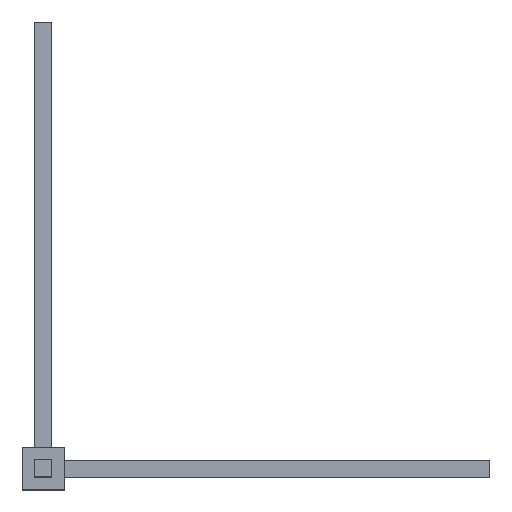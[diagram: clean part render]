
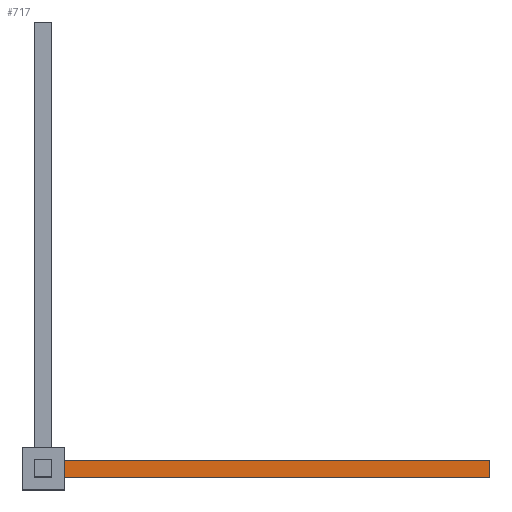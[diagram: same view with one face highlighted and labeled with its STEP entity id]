
A CAD part, top view. The second image highlights one B-rep face of the part: STEP entity #717.
In plain terms, the highlighted planar face has unit normal (0, 0, 1).
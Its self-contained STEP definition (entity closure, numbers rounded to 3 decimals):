
#403 = VERTEX_POINT('',#404);
#404 = CARTESIAN_POINT('',(5.,-2.,2.));
#411 = PLANE('',#412);
#412 = AXIS2_PLACEMENT_3D('',#413,#414,#415);
#413 = CARTESIAN_POINT('',(5.,-2.,-2.));
#414 = DIRECTION('',(1.,0.,0.));
#415 = DIRECTION('',(0.,0.,1.));
#423 = PLANE('',#424);
#424 = AXIS2_PLACEMENT_3D('',#425,#426,#427);
#425 = CARTESIAN_POINT('',(5.,-2.,-2.));
#426 = DIRECTION('',(0.,1.,0.));
#427 = DIRECTION('',(0.,0.,1.));
#464 = VERTEX_POINT('',#465);
#465 = CARTESIAN_POINT('',(5.,2.,2.));
#479 = PLANE('',#480);
#480 = AXIS2_PLACEMENT_3D('',#481,#482,#483);
#481 = CARTESIAN_POINT('',(5.,2.,-2.));
#482 = DIRECTION('',(0.,1.,0.));
#483 = DIRECTION('',(0.,0.,1.));
#491 = EDGE_CURVE('',#403,#464,#492,.T.);
#492 = SURFACE_CURVE('',#493,(#497,#504),.PCURVE_S1.);
#493 = LINE('',#494,#495);
#494 = CARTESIAN_POINT('',(5.,-2.,2.));
#495 = VECTOR('',#496,1.);
#496 = DIRECTION('',(0.,1.,0.));
#497 = PCURVE('',#411,#498);
#498 = DEFINITIONAL_REPRESENTATION('',(#499),#503);
#499 = LINE('',#500,#501);
#500 = CARTESIAN_POINT('',(4.,0.));
#501 = VECTOR('',#502,1.);
#502 = DIRECTION('',(0.,-1.));
#503 = ( GEOMETRIC_REPRESENTATION_CONTEXT(2) 
PARAMETRIC_REPRESENTATION_CONTEXT() REPRESENTATION_CONTEXT('2D SPACE',''
  ) );
#504 = PCURVE('',#505,#510);
#505 = PLANE('',#506);
#506 = AXIS2_PLACEMENT_3D('',#507,#508,#509);
#507 = CARTESIAN_POINT('',(5.,-2.,2.));
#508 = DIRECTION('',(0.,0.,1.));
#509 = DIRECTION('',(1.,0.,0.));
#510 = DEFINITIONAL_REPRESENTATION('',(#511),#515);
#511 = LINE('',#512,#513);
#512 = CARTESIAN_POINT('',(0.,0.));
#513 = VECTOR('',#514,1.);
#514 = DIRECTION('',(0.,1.));
#515 = ( GEOMETRIC_REPRESENTATION_CONTEXT(2) 
PARAMETRIC_REPRESENTATION_CONTEXT() REPRESENTATION_CONTEXT('2D SPACE',''
  ) );
#523 = VERTEX_POINT('',#524);
#524 = CARTESIAN_POINT('',(105.,-2.,2.));
#531 = PLANE('',#532);
#532 = AXIS2_PLACEMENT_3D('',#533,#534,#535);
#533 = CARTESIAN_POINT('',(105.,-2.,-2.));
#534 = DIRECTION('',(1.,0.,0.));
#535 = DIRECTION('',(0.,0.,1.));
#574 = VERTEX_POINT('',#575);
#575 = CARTESIAN_POINT('',(105.,2.,2.));
#596 = EDGE_CURVE('',#523,#574,#597,.T.);
#597 = SURFACE_CURVE('',#598,(#602,#609),.PCURVE_S1.);
#598 = LINE('',#599,#600);
#599 = CARTESIAN_POINT('',(105.,-2.,2.));
#600 = VECTOR('',#601,1.);
#601 = DIRECTION('',(0.,1.,0.));
#602 = PCURVE('',#531,#603);
#603 = DEFINITIONAL_REPRESENTATION('',(#604),#608);
#604 = LINE('',#605,#606);
#605 = CARTESIAN_POINT('',(4.,0.));
#606 = VECTOR('',#607,1.);
#607 = DIRECTION('',(0.,-1.));
#608 = ( GEOMETRIC_REPRESENTATION_CONTEXT(2) 
PARAMETRIC_REPRESENTATION_CONTEXT() REPRESENTATION_CONTEXT('2D SPACE',''
  ) );
#609 = PCURVE('',#505,#610);
#610 = DEFINITIONAL_REPRESENTATION('',(#611),#615);
#611 = LINE('',#612,#613);
#612 = CARTESIAN_POINT('',(100.,0.));
#613 = VECTOR('',#614,1.);
#614 = DIRECTION('',(0.,1.));
#615 = ( GEOMETRIC_REPRESENTATION_CONTEXT(2) 
PARAMETRIC_REPRESENTATION_CONTEXT() REPRESENTATION_CONTEXT('2D SPACE',''
  ) );
#642 = EDGE_CURVE('',#403,#523,#643,.T.);
#643 = SURFACE_CURVE('',#644,(#648,#655),.PCURVE_S1.);
#644 = LINE('',#645,#646);
#645 = CARTESIAN_POINT('',(5.,-2.,2.));
#646 = VECTOR('',#647,1.);
#647 = DIRECTION('',(1.,0.,0.));
#648 = PCURVE('',#423,#649);
#649 = DEFINITIONAL_REPRESENTATION('',(#650),#654);
#650 = LINE('',#651,#652);
#651 = CARTESIAN_POINT('',(4.,0.));
#652 = VECTOR('',#653,1.);
#653 = DIRECTION('',(0.,1.));
#654 = ( GEOMETRIC_REPRESENTATION_CONTEXT(2) 
PARAMETRIC_REPRESENTATION_CONTEXT() REPRESENTATION_CONTEXT('2D SPACE',''
  ) );
#655 = PCURVE('',#505,#656);
#656 = DEFINITIONAL_REPRESENTATION('',(#657),#661);
#657 = LINE('',#658,#659);
#658 = CARTESIAN_POINT('',(0.,0.));
#659 = VECTOR('',#660,1.);
#660 = DIRECTION('',(1.,0.));
#661 = ( GEOMETRIC_REPRESENTATION_CONTEXT(2) 
PARAMETRIC_REPRESENTATION_CONTEXT() REPRESENTATION_CONTEXT('2D SPACE',''
  ) );
#689 = EDGE_CURVE('',#464,#574,#690,.T.);
#690 = SURFACE_CURVE('',#691,(#695,#702),.PCURVE_S1.);
#691 = LINE('',#692,#693);
#692 = CARTESIAN_POINT('',(5.,2.,2.));
#693 = VECTOR('',#694,1.);
#694 = DIRECTION('',(1.,0.,0.));
#695 = PCURVE('',#479,#696);
#696 = DEFINITIONAL_REPRESENTATION('',(#697),#701);
#697 = LINE('',#698,#699);
#698 = CARTESIAN_POINT('',(4.,0.));
#699 = VECTOR('',#700,1.);
#700 = DIRECTION('',(0.,1.));
#701 = ( GEOMETRIC_REPRESENTATION_CONTEXT(2) 
PARAMETRIC_REPRESENTATION_CONTEXT() REPRESENTATION_CONTEXT('2D SPACE',''
  ) );
#702 = PCURVE('',#505,#703);
#703 = DEFINITIONAL_REPRESENTATION('',(#704),#708);
#704 = LINE('',#705,#706);
#705 = CARTESIAN_POINT('',(0.,4.));
#706 = VECTOR('',#707,1.);
#707 = DIRECTION('',(1.,0.));
#708 = ( GEOMETRIC_REPRESENTATION_CONTEXT(2) 
PARAMETRIC_REPRESENTATION_CONTEXT() REPRESENTATION_CONTEXT('2D SPACE',''
  ) );
#717 = ADVANCED_FACE('',(#718),#505,.T.);
#718 = FACE_BOUND('',#719,.T.);
#719 = EDGE_LOOP('',(#720,#721,#722,#723));
#720 = ORIENTED_EDGE('',*,*,#491,.F.);
#721 = ORIENTED_EDGE('',*,*,#642,.T.);
#722 = ORIENTED_EDGE('',*,*,#596,.T.);
#723 = ORIENTED_EDGE('',*,*,#689,.F.);
